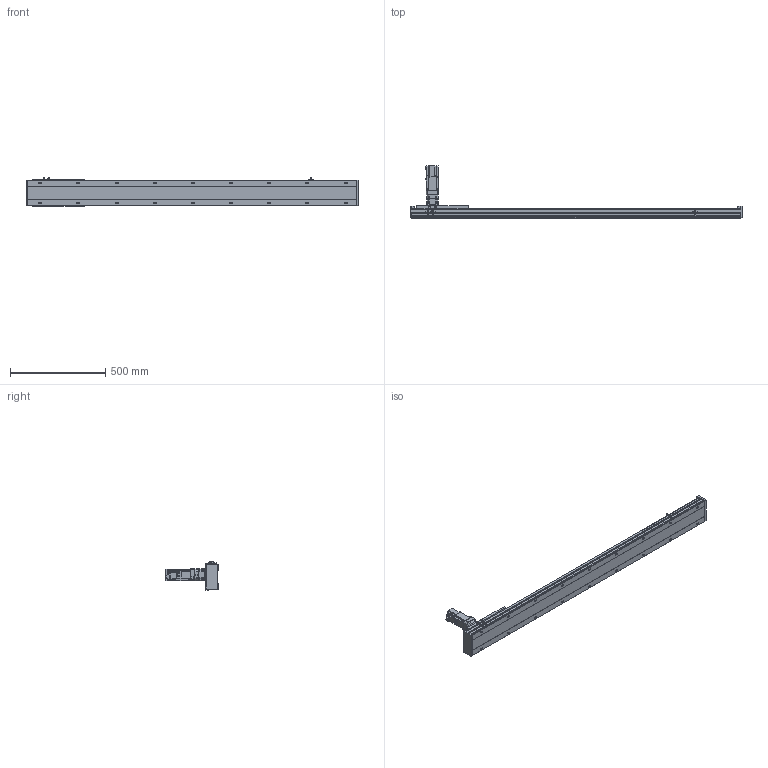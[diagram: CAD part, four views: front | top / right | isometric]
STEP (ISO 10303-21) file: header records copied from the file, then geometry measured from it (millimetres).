
FILE_DESCRIPTION(/* description */ ('STEP AP203'),/* implementation_level */ '2;1');
FILE_NAME(/* name */ 'SHS14A-L10-S1400-BC-T40-C1-N(0)',/* time_stamp */ '2023-03-27T08:49:00+02:00',/* author */ ('License CC BY-ND 4.0'),/* organization */ ('CADENAS'),/* preprocessor_version */ 'ST-DEVELOPER v19.3',/* originating_system */ 'PARTsolutions',/* authorisation */ ' ');
FILE_SCHEMA (('CONFIG_CONTROL_DESIGN'));
Length unit declared in the file: millimetre
Products named in the file (7): SHS14A-L10-S1400-BC-T40-C1-N(0); PSC140-sensor; T40-p1; SHS14AT_body3; SHS14A-1400_slider; SHS14A_body2; SHS14A-S1400-BC-T40-C1(0)_body
Assembly tree (13 placements, depth 2):
  SHS14A-L10-S1400-BC-T40-C1-N(0)
    PSC140-sensor  x3
    T40-p1
    SHS14AT_body3
    SHS14A-1400_slider
    SHS14A_body2  x6
    SHS14A-S1400-BC-T40-C1(0)_body
Bounding box: 1740 x 272.7 x 150.9 mm (x, y, z)
Volume: 7785901.9 mm3; surface area: 1232117.6 mm2
Topology: 13 solids, 13 shells, 2044 faces, 5223 edges, 3416 vertices
Faces by surface type: plane 1449, cylinder 515, cone 70, torus 10
Full cylindrical faces by diameter (mm): 2.8 x3, 4.134 x24, 4.2 x7, 4.4 x24, 4.5 x24, 4.6 x3, 4.8 x24, 4.917 x26, 5 x8, 5.5 x11, 5.94 x6, 6 x2, 6.6 x18, 8 x24, 8.49 x4, 8.5 x4, 9 x4, 10.5 x18, 13.964 x1, 14 x1, 14.182 x1, 16 x1, 18.974 x1, 19.274 x1, 19.774 x1, 19.8 x1, 34.442 x1, 42 x1, 50 x5
Entity records: 32028 total; most frequent: CARTESIAN_POINT 5652, DIRECTION 5417, ORIENTED_EDGE 5022, EDGE_CURVE 2511, AXIS2_PLACEMENT_3D 1857, VERTEX_POINT 1780, LINE 1703, VECTOR 1703
